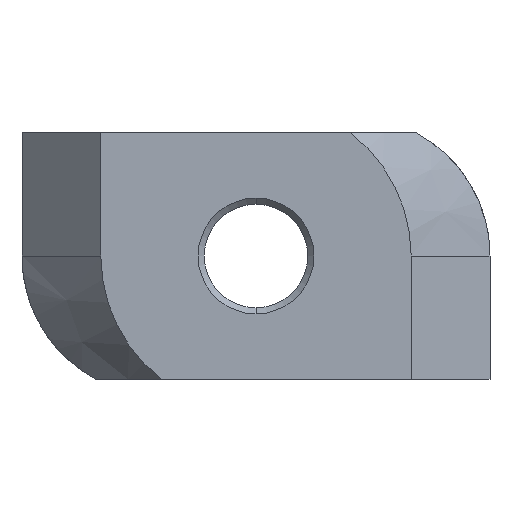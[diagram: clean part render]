
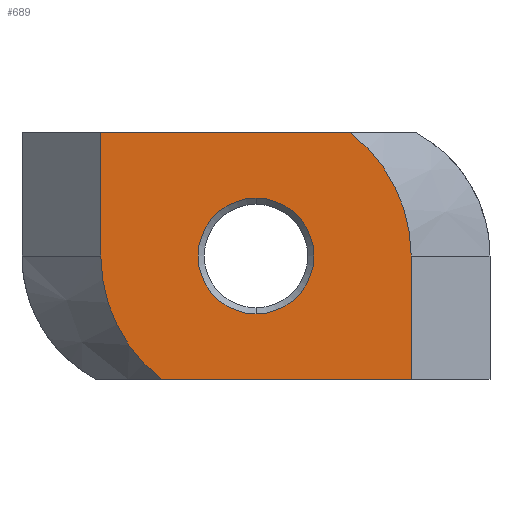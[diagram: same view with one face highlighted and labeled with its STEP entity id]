
A CAD part, front view. The second image highlights one B-rep face of the part: STEP entity #689.
In plain terms, the highlighted planar face has unit normal (0, -1, 0).
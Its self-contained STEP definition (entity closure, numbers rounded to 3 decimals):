
#92 = VECTOR ( 'NONE', #645, 1000. ) ;
#109 = LINE ( 'NONE', #1280, #92 ) ;
#114 = CARTESIAN_POINT ( 'NONE',  ( 0., -4.35, 0. ) ) ;
#145 = EDGE_CURVE ( 'NONE', #1087, #367, #1301, .T. ) ;
#198 = PLANE ( 'NONE',  #1057 ) ;
#218 = CARTESIAN_POINT ( 'NONE',  ( 0., -4.35, 2.35 ) ) ;
#219 = EDGE_CURVE ( 'NONE', #704, #1484, #1633, .T. ) ;
#226 = CIRCLE ( 'NONE', #903, 2.35 ) ;
#232 = LINE ( 'NONE', #1615, #263 ) ;
#246 = EDGE_CURVE ( 'NONE', #1144, #1087, #1650, .T. ) ;
#253 = CARTESIAN_POINT ( 'NONE',  ( 6.3, -4.35, -5. ) ) ;
#263 = VECTOR ( 'NONE', #860, 1000. ) ;
#278 = DIRECTION ( 'NONE',  ( 0., 1., 0. ) ) ;
#343 = AXIS2_PLACEMENT_3D ( 'NONE', #1139, #595, #1604 ) ;
#362 = EDGE_CURVE ( 'NONE', #1250, #1144, #1400, .T. ) ;
#367 = VERTEX_POINT ( 'NONE', #1145 ) ;
#403 = DIRECTION ( 'NONE',  ( 0., 0., 1. ) ) ;
#488 = EDGE_LOOP ( 'NONE', ( #1500, #1658, #1208, #1439, #1270, #1590 ) ) ;
#535 = CARTESIAN_POINT ( 'NONE',  ( -6.3, -4.35, 5. ) ) ;
#559 = CIRCLE ( 'NONE', #1622, 2.35 ) ;
#582 = VERTEX_POINT ( 'NONE', #218 ) ;
#595 = DIRECTION ( 'NONE',  ( 0., 1., 0. ) ) ;
#626 = VECTOR ( 'NONE', #1053, 1000. ) ;
#633 = ORIENTED_EDGE ( 'NONE', *, *, #634, .T. ) ;
#634 = EDGE_CURVE ( 'NONE', #582, #1475, #559, .T. ) ;
#645 = DIRECTION ( 'NONE',  ( 1., 0., 0. ) ) ;
#679 = DIRECTION ( 'NONE',  ( 0., 1., 0. ) ) ;
#689 = ADVANCED_FACE ( 'NONE', ( #1481, #1433 ), #198, .F. ) ;
#704 = VERTEX_POINT ( 'NONE', #1120 ) ;
#746 = CARTESIAN_POINT ( 'NONE',  ( -6.3, -4.35, 0. ) ) ;
#846 = EDGE_LOOP ( 'NONE', ( #1467, #633 ) ) ;
#860 = DIRECTION ( 'NONE',  ( 0., 0., -1. ) ) ;
#903 = AXIS2_PLACEMENT_3D ( 'NONE', #114, #278, #949 ) ;
#907 = CARTESIAN_POINT ( 'NONE',  ( -3.833, -4.35, -5. ) ) ;
#925 = CARTESIAN_POINT ( 'NONE',  ( 0., -4.35, 0. ) ) ;
#949 = DIRECTION ( 'NONE',  ( 0., 0., 1. ) ) ;
#1013 = CARTESIAN_POINT ( 'NONE',  ( 6.3, -4.35, 5. ) ) ;
#1053 = DIRECTION ( 'NONE',  ( 1., 0., 0. ) ) ;
#1057 = AXIS2_PLACEMENT_3D ( 'NONE', #1013, #1133, #1631 ) ;
#1087 = VERTEX_POINT ( 'NONE', #907 ) ;
#1120 = CARTESIAN_POINT ( 'NONE',  ( 3.833, -4.35, 5. ) ) ;
#1133 = DIRECTION ( 'NONE',  ( 0., 1., 0. ) ) ;
#1139 = CARTESIAN_POINT ( 'NONE',  ( 0., -4.35, 0. ) ) ;
#1144 = VERTEX_POINT ( 'NONE', #746 ) ;
#1145 = CARTESIAN_POINT ( 'NONE',  ( 6.3, -4.35, -5. ) ) ;
#1208 = ORIENTED_EDGE ( 'NONE', *, *, #145, .T. ) ;
#1247 = DIRECTION ( 'NONE',  ( 0., -1., 0. ) ) ;
#1250 = VERTEX_POINT ( 'NONE', #535 ) ;
#1270 = ORIENTED_EDGE ( 'NONE', *, *, #219, .F. ) ;
#1280 = CARTESIAN_POINT ( 'NONE',  ( 6.3, -4.35, 5. ) ) ;
#1281 = CARTESIAN_POINT ( 'NONE',  ( 0., -4.35, 0. ) ) ;
#1301 = LINE ( 'NONE', #253, #626 ) ;
#1349 = EDGE_CURVE ( 'NONE', #1484, #367, #232, .T. ) ;
#1371 = CARTESIAN_POINT ( 'NONE',  ( 6.3, -4.35, 0. ) ) ;
#1400 = LINE ( 'NONE', #1530, #1512 ) ;
#1407 = EDGE_CURVE ( 'NONE', #1475, #582, #226, .T. ) ;
#1433 = FACE_OUTER_BOUND ( 'NONE', #488, .T. ) ;
#1439 = ORIENTED_EDGE ( 'NONE', *, *, #1349, .F. ) ;
#1446 = DIRECTION ( 'NONE',  ( 0., 0., 1. ) ) ;
#1467 = ORIENTED_EDGE ( 'NONE', *, *, #1407, .T. ) ;
#1475 = VERTEX_POINT ( 'NONE', #1600 ) ;
#1481 = FACE_BOUND ( 'NONE', #846, .T. ) ;
#1484 = VERTEX_POINT ( 'NONE', #1371 ) ;
#1500 = ORIENTED_EDGE ( 'NONE', *, *, #362, .T. ) ;
#1512 = VECTOR ( 'NONE', #1646, 1000. ) ;
#1530 = CARTESIAN_POINT ( 'NONE',  ( -6.3, -4.35, 5. ) ) ;
#1590 = ORIENTED_EDGE ( 'NONE', *, *, #1607, .F. ) ;
#1600 = CARTESIAN_POINT ( 'NONE',  ( 0., -4.35, -2.35 ) ) ;
#1604 = DIRECTION ( 'NONE',  ( 0., 0., 1. ) ) ;
#1607 = EDGE_CURVE ( 'NONE', #1250, #704, #109, .T. ) ;
#1615 = CARTESIAN_POINT ( 'NONE',  ( 6.3, -4.35, 5. ) ) ;
#1622 = AXIS2_PLACEMENT_3D ( 'NONE', #925, #679, #1446 ) ;
#1631 = DIRECTION ( 'NONE',  ( 0., 0., 1. ) ) ;
#1633 = CIRCLE ( 'NONE', #343, 6.3 ) ;
#1640 = AXIS2_PLACEMENT_3D ( 'NONE', #1281, #1247, #403 ) ;
#1646 = DIRECTION ( 'NONE',  ( 0., 0., -1. ) ) ;
#1650 = CIRCLE ( 'NONE', #1640, 6.3 ) ;
#1658 = ORIENTED_EDGE ( 'NONE', *, *, #246, .T. ) ;
